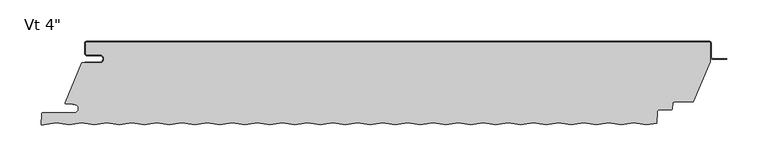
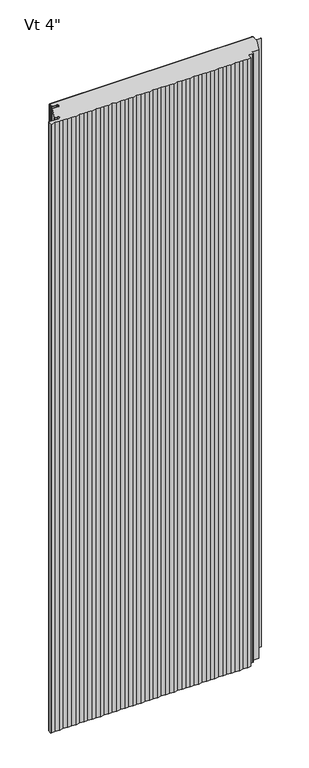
"""IFC4 building model written with IfcOpenShell, lengths in millimetres: plate geometry."""

import ifcopenshell
import ifcopenshell.guid

model = None  # the IFC model being written
_history = None  # IfcOwnerHistory: only IFC2X3 demands one
_inside = {}  # id of a spatial element -> (the spatial element, [elements in it])
_under = {}  # id of a project, library or spatial element -> (it, [spatial elements below it])
_declared = {}  # id of a project -> (the project, [libraries it declares])
_typed = {}  # id of a type object -> (the type object, [elements of that type])
_made_of = {}  # id of a material, layer set ... -> (it, [elements and type objects made of it])


def new_model(schema):
    """Start an empty IFC model of exactly this schema.

    Asked for "IFC4X3", IfcOpenShell would pick the latest addendum, in which some entities
    have other attributes; the version numbers below select the first issue.
    IFC2X3 requires an IfcOwnerHistory on every rooted entity: one is made here for all.
    """
    global model, _history
    if schema == "IFC4X3":
        model = ifcopenshell.file(schema_version=(4, 3, 0, 0))
    else:
        model = ifcopenshell.file(schema=schema)
    _inside.clear()
    _under.clear()
    _declared.clear()
    _typed.clear()
    _made_of.clear()
    _history = None
    if model.schema == "IFC2X3":
        org = make("IfcOrganization", Name="unknown")
        user = make(
            "IfcPersonAndOrganization",
            ThePerson=make("IfcPerson", FamilyName="unknown"),
            TheOrganization=org,
        )
        app = make(
            "IfcApplication",
            ApplicationDeveloper=org,
            Version="unknown",
            ApplicationFullName="unknown",
            ApplicationIdentifier="unknown",
        )
        _history = make(
            "IfcOwnerHistory",
            OwningUser=user,
            OwningApplication=app,
            ChangeAction="ADDED",
            CreationDate=0,
        )
    return model


def make(cls, **values):
    """One entity of the class cls with the attributes given. An attribute that is None is left unset."""
    return model.create_entity(
        cls, **{name: value for name, value in values.items() if value is not None}
    )


def rooted(cls, **values):
    """An entity with a GlobalId (a new one), such as an element, a storey or a relation."""
    return make(cls, GlobalId=ifcopenshell.guid.new(), OwnerHistory=_history, **values)


def si_unit(unit_type, name, prefix=None):
    """IfcSIUnit, for example si_unit("LENGTHUNIT", "METRE", prefix="MILLI")."""
    return make("IfcSIUnit", UnitType=unit_type, Prefix=prefix, Name=name)


def assignment(units):
    """IfcUnitAssignment: the units of a project."""
    return None if units is None else make("IfcUnitAssignment", Units=units)


def point(xyz):
    """IfcCartesianPoint."""
    return None if xyz is None else make("IfcCartesianPoint", Coordinates=xyz)


def direction(xyz):
    """IfcDirection."""
    return None if xyz is None else make("IfcDirection", DirectionRatios=xyz)


def frame(location, z_axis=None, x_axis=None):
    """IfcAxis2Placement3D, a coordinate frame: its origin and axes. An axis left out is left unset."""
    return make(
        "IfcAxis2Placement3D",
        Location=point(location),
        Axis=direction(z_axis),
        RefDirection=direction(x_axis),
    )


def frame_2d(location, x_axis=None):
    """IfcAxis2Placement2D, a coordinate frame in the plane: its origin and x axis."""
    return make(
        "IfcAxis2Placement2D", Location=point(location), RefDirection=direction(x_axis)
    )


def origin():
    """The frame at (0, 0, 0) with its axes left unset."""
    return frame((0.0, 0.0, 0.0))


def origin_with_axes():
    """The frame at (0, 0, 0) with the z axis (0, 0, 1) and the x axis (1, 0, 0) written out."""
    return frame((0.0, 0.0, 0.0), z_axis=(0.0, 0.0, 1.0), x_axis=(1.0, 0.0, 0.0))


def place(relative_to, where):
    """IfcLocalPlacement: puts the frame where relative to a parent placement (None: the world)."""
    return make(
        "IfcLocalPlacement", PlacementRelTo=relative_to, RelativePlacement=where
    )


def context(
    kind, dimensions, precision=None, world=None, true_north=None, identifier=None
):
    """IfcGeometricRepresentationContext, for example the 3D "Model" context."""
    return make(
        "IfcGeometricRepresentationContext",
        ContextIdentifier=identifier,
        ContextType=kind,
        CoordinateSpaceDimension=dimensions,
        Precision=precision,
        WorldCoordinateSystem=world,
        TrueNorth=true_north,
    )


def project(units=None, contexts=None):
    """IfcProject with its units and contexts."""
    return rooted(
        "IfcProject",
        Name="project",
        RepresentationContexts=contexts,
        UnitsInContext=assignment(units),
    )


def spatial(cls, under=None, at=None, **own):
    """A site, building, storey or space (cls), placed at a placement, below another one or the project."""
    s = rooted(cls, ObjectPlacement=at, **own)
    if under is not None:
        _under.setdefault(under.id(), (under, []))[1].append(s)
    return s


def polyline(points):
    """IfcPolyline through the points."""
    return make("IfcPolyline", Points=[point(p) for p in points])


def circle_curve(where, radius):
    """IfcCircle in the frame where."""
    return make("IfcCircle", Position=where, Radius=radius)


def trimmed(basis, trim1, trim2, sense, master):
    """IfcTrimmedCurve: the piece of a basis curve between two trims."""
    return make(
        "IfcTrimmedCurve",
        BasisCurve=basis,
        Trim1=trim1,
        Trim2=trim2,
        SenseAgreement=sense,
        MasterRepresentation=master,
    )


def segment(curve, same_sense, transition):
    """IfcCompositeCurveSegment."""
    return make(
        "IfcCompositeCurveSegment",
        Transition=transition,
        SameSense=same_sense,
        ParentCurve=curve,
    )


def composite_curve(segments, self_intersect=None):
    """IfcCompositeCurve: segments joined end to end."""
    return make("IfcCompositeCurve", Segments=segments, SelfIntersect=self_intersect)


def outline(outer, holes=None, kind="AREA"):
    """IfcArbitraryClosedProfileDef: a profile drawn as a closed curve; with holes, ...WithVoids."""
    if holes is None:
        return make("IfcArbitraryClosedProfileDef", ProfileType=kind, OuterCurve=outer)
    return make(
        "IfcArbitraryProfileDefWithVoids",
        ProfileType=kind,
        OuterCurve=outer,
        InnerCurves=holes,
    )


def extrude(swept, where, along, depth):
    """IfcExtrudedAreaSolid: the profile swept, set in the frame where, extruded along a direction by depth."""
    return make(
        "IfcExtrudedAreaSolid",
        SweptArea=swept,
        Position=where,
        ExtrudedDirection=direction(along),
        Depth=depth,
    )


def shape(context_of_items, identifier, shape_type, items):
    """IfcShapeRepresentation: the items that make up one representation, for example the "Body"."""
    return make(
        "IfcShapeRepresentation",
        ContextOfItems=context_of_items,
        RepresentationIdentifier=identifier,
        RepresentationType=shape_type,
        Items=items,
    )


def source(mapping_origin, context_of_items, identifier, shape_type, items):
    """IfcRepresentationMap: a shape defined once, which mapped items show again and again."""
    return make(
        "IfcRepresentationMap",
        MappingOrigin=mapping_origin,
        MappedRepresentation=shape(context_of_items, identifier, shape_type, items),
    )


def transform(
    local_origin,
    x_axis=None,
    y_axis=None,
    z_axis=None,
    scale=None,
    scale2=None,
    scale3=None,
    uniform=True,
):
    """IfcCartesianTransformationOperator3D, or its non-uniform kind. x_axis, y_axis, z_axis: its Axis1, 2, 3."""
    if uniform:
        return make(
            "IfcCartesianTransformationOperator3D",
            Axis1=direction(x_axis),
            Axis2=direction(y_axis),
            LocalOrigin=point(local_origin),
            Scale=scale,
            Axis3=direction(z_axis),
        )
    return make(
        "IfcCartesianTransformationOperator3DnonUniform",
        Axis1=direction(x_axis),
        Axis2=direction(y_axis),
        LocalOrigin=point(local_origin),
        Scale=scale,
        Axis3=direction(z_axis),
        Scale2=scale2,
        Scale3=scale3,
    )


def mapped(mapping_source, mapping_target):
    """IfcMappedItem: shows the shape of a source again, moved by a transform."""
    return make(
        "IfcMappedItem", MappingSource=mapping_source, MappingTarget=mapping_target
    )


def made_of(thing, what):
    """Note that an element or type object is made of a material, layer set ...; save() writes the relation."""
    if what is not None:
        _made_of.setdefault(what.id(), (what, []))[1].append(thing)
    return thing


def element(
    cls,
    number,
    at=None,
    inside=None,
    cuts=None,
    type_object=None,
    material=None,
    context=None,
    identifier="Body",
    shape_type=None,
    held_by="IfcProductDefinitionShape",
    body=None,
    shapes=None,
    **own,
):
    """One element of the class cls, such as IfcWall. Its Tag is "e" and its number.

    at: its placement. inside: the storey or other place that contains it. cuts: it is an
    opening in that element (IfcRelVoidsElement). A single representation is given by context,
    identifier, shape_type and body (its items); several are given by shapes. held_by: the class
    of the entity that holds the representations. save() writes the other relations.
    """
    e = rooted(cls, Tag="e%d" % number, ObjectPlacement=at, **own)
    if body is not None:
        shapes = [shape(context, identifier, shape_type, body)]
    if shapes is not None:
        e.Representation = make(held_by, Representations=shapes)
    if inside is not None:
        _inside.setdefault(inside.id(), (inside, []))[1].append(e)
    if cuts is not None:
        rooted(
            "IfcRelVoidsElement", RelatingBuildingElement=cuts, RelatedOpeningElement=e
        )
    if type_object is not None:
        _typed.setdefault(type_object.id(), (type_object, []))[1].append(e)
    return made_of(e, material)


def aggregate(whole, parts):
    """IfcRelAggregates: a whole, such as a stair, and the parts it consists of."""
    return rooted("IfcRelAggregates", RelatingObject=whole, RelatedObjects=parts)


def save(model, path):
    """Write the relations noted so far, then the file.

    IfcRelAggregates (storeys below a building ...), IfcRelContainedInSpatialStructure (elements
    in a storey), IfcRelDefinesByType, IfcRelAssociatesMaterial and IfcRelDeclares: one each for
    every whole, place, type object, material and project.
    """
    for whole, parts in _under.values():
        aggregate(whole, parts)
    for where, things in _inside.values():
        rooted(
            "IfcRelContainedInSpatialStructure",
            RelatedElements=things,
            RelatingStructure=where,
        )
    for kind, things in _typed.values():
        rooted("IfcRelDefinesByType", RelatedObjects=things, RelatingType=kind)
    for what, things in _made_of.values():
        rooted("IfcRelAssociatesMaterial", RelatedObjects=things, RelatingMaterial=what)
    for by, libraries in _declared.values():
        rooted("IfcRelDeclares", RelatingContext=by, RelatedDefinitions=libraries)
    model.write(path)


def plate_d86a47c3(model_context):
    return source(origin(), model_context, "Body", "SweptSolid", [
        extrude(outline(composite_curve([segment(polyline([(-361.94375, -16.4625), (-377.81875, -16.4625)]), True, "CONTINUOUS"), segment(trimmed(circle_curve(frame_2d((-377.81875, -15.08125)), 1.38125), [point((-377.81875, -16.4625))], [point((-379.2, -15.08125))], False, "CARTESIAN"), True, "CONTINUOUS"), segment(polyline([(-379.2, -15.08125), (-379.2, -2.38125)]), True, "CONTINUOUS"), segment(trimmed(circle_curve(frame_2d((-377.81875, -2.38125)), 1.38125), [point((-379.2, -2.38125))], [point((-377.81875, -1.0))], False, "CARTESIAN"), True, "CONTINUOUS"), segment(polyline([(-377.81875, -1.0), (377.83125, -1.0)]), True, "CONTINUOUS"), segment(trimmed(circle_curve(frame_2d((377.83125, -2.38125)), 1.38125), [point((377.83125, -1.0))], [point((379.2125, -2.38125))], False, "CARTESIAN"), True, "CONTINUOUS"), segment(polyline([(379.2125, -2.38125), (379.2125, -24.9057308), (358.3955434, -73.6125), (335.9540783, -73.6125)]), True, "CONTINUOUS"), segment(trimmed(circle_curve(frame_2d((335.9540783, -76.2)), 2.5875), [point((335.9540783, -73.6125))], [point((333.3701244, -76.0645807))], True, "CARTESIAN"), True, "CONTINUOUS"), segment(polyline([(333.3701244, -76.0645807), (333.0680481, -81.828539)]), True, "CONTINUOUS"), segment(trimmed(circle_curve(frame_2d((331.6886911, -81.75625)), 1.38125), [point((333.0680481, -81.828539))], [point((331.6886911, -83.1375))], False, "CARTESIAN"), True, "CONTINUOUS"), segment(polyline([(331.6886911, -83.1375), (317.5323847, -83.1375)]), True, "CONTINUOUS"), segment(trimmed(circle_curve(frame_2d((317.5323847, -85.725)), 2.5875), [point((317.5323847, -83.1375))], [point((314.9484307, -85.5895807))], True, "CARTESIAN"), True, "CONTINUOUS"), segment(polyline([(314.9484307, -85.5895807), (314.2106485, -99.6673048), (301.4725, -101.7054086), (286.4350675, -99.2994194), (271.1950675, -101.7378194), (255.9550675, -99.2994194), (240.7150675, -101.7378194), (225.4750675, -99.2994194), (210.2350675, -101.7378194), (194.9950675, -99.2994194), (179.7550675, -101.7378194), (164.5150675, -99.2994194), (149.2750675, -101.7378194), (134.0350675, -99.2994194), (118.7950675, -101.7378194), (103.5550675, -99.2994194), (88.3150675, -101.7378194), (73.0750675, -99.2994194), (57.8350675, -101.7378194), (42.5950675, -99.2994194), (27.3550675, -101.7378194), (12.1150675, -99.2994194), (-3.1249325, -101.7378194), (-18.3649325, -99.2994194), (-33.6049325, -101.7378194), (-48.8449325, -99.2994194), (-64.0849325, -101.7378194), (-79.3249325, -99.2994194), (-94.5649325, -101.7378194), (-109.8049325, -99.2994194), (-125.0449325, -101.7378194), (-140.2849325, -99.2994194), (-155.5249325, -101.7378194), (-170.7649325, -99.2994194), (-186.0049325, -101.7378194), (-201.2449325, -99.2994194), (-216.4849325, -101.7378194), (-231.7249325, -99.2994194), (-246.9649325, -101.7378194), (-262.2049325, -99.2994194), (-277.4449325, -101.7378194), (-292.6849325, -99.2994194), (-307.9249325, -101.7378194), (-323.1649325, -99.2994194), (-338.4049325, -101.7378194), (-353.6449325, -99.2994194), (-368.8849325, -101.7378194), (-384.1249325, -99.2994194), (-399.3649325, -101.7378194), (-414.6049325, -99.2994194), (-429.8449325, -101.7378194), (-433.1672594, -101.2062471), (-432.4769291, -88.033961)]), True, "CONTINUOUS"), segment(trimmed(circle_curve(frame_2d((-431.0975721, -88.10625)), 1.38125), [point((-432.4769291, -88.033961))], [point((-431.0975721, -86.725))], False, "CARTESIAN"), True, "CONTINUOUS"), segment(polyline([(-431.0975721, -86.725), (-392.9142674, -86.725)]), True, "CONTINUOUS"), segment(trimmed(circle_curve(frame_2d((-392.9142674, -81.75625)), 4.96875), [point((-392.9142674, -86.725))], [point((-392.9142674, -76.7875))], True, "CARTESIAN"), True, "CONTINUOUS"), segment(polyline([(-392.9142674, -76.7875), (-394.5017674, -76.99375), (-394.5017674, -76.2), (-404.0125, -76.2), (-404.0125, -74.6157227), (-384.1260922, -26.4), (-361.94375, -26.4)]), True, "CONTINUOUS"), segment(trimmed(circle_curve(frame_2d((-361.94375, -21.43125)), 4.96875), [point((-361.94375, -26.4))], [point((-361.94375, -16.4625))], True, "CARTESIAN"), True, "CONTINUOUS")], self_intersect=False)), origin_with_axes(), (0.0, 0.0, 1.0), 2400.0),
        extrude(outline(composite_curve([segment(polyline([(-380.2, -25.4), (-361.94375, -25.4)]), True, "CONTINUOUS"), segment(trimmed(circle_curve(frame_2d((-361.94375, -21.43125)), 3.96875), [point((-361.94375, -25.4))], [point((-361.94375, -17.4625))], True, "CARTESIAN"), True, "CONTINUOUS"), segment(polyline([(-361.94375, -17.4625), (-377.81875, -17.4625)]), True, "CONTINUOUS"), segment(trimmed(circle_curve(frame_2d((-377.81875, -15.08125)), 2.38125), [point((-377.81875, -17.4625))], [point((-380.2, -15.08125))], False, "CARTESIAN"), True, "CONTINUOUS"), segment(polyline([(-380.2, -15.08125), (-380.2, -2.38125)]), True, "CONTINUOUS"), segment(trimmed(circle_curve(frame_2d((-377.81875, -2.38125)), 2.38125), [point((-380.2, -2.38125))], [point((-377.81875, 0.0))], False, "CARTESIAN"), True, "CONTINUOUS"), segment(polyline([(-377.81875, 0.0), (377.83125, 0.0)]), True, "CONTINUOUS"), segment(trimmed(circle_curve(frame_2d((377.83125, -2.38125)), 2.38125), [point((377.83125, 0.0))], [point((380.2125, -2.38125))], False, "CARTESIAN"), True, "CONTINUOUS"), segment(polyline([(380.2125, -2.38125), (380.2125, -19.446875)]), True, "CONTINUOUS"), segment(trimmed(circle_curve(frame_2d((381.8, -19.446875)), 1.5875), [point((380.2125, -19.446875))], [point((381.8, -21.034375))], True, "CARTESIAN"), True, "CONTINUOUS"), segment(polyline([(381.8, -21.034375), (399.2625, -21.034375), (399.2625, -22.034375), (381.8, -22.034375)]), True, "CONTINUOUS"), segment(trimmed(circle_curve(frame_2d((381.8, -19.446875)), 2.5875), [point((381.8, -22.034375))], [point((379.2125, -19.446875))], False, "CARTESIAN"), True, "CONTINUOUS"), segment(polyline([(379.2125, -19.446875), (379.2125, -2.38125)]), True, "CONTINUOUS"), segment(trimmed(circle_curve(frame_2d((377.83125, -2.38125)), 1.38125), [point((379.2125, -2.38125))], [point((377.83125, -1.0))], True, "CARTESIAN"), True, "CONTINUOUS"), segment(polyline([(377.83125, -1.0), (-377.81875, -1.0)]), True, "CONTINUOUS"), segment(trimmed(circle_curve(frame_2d((-377.81875, -2.38125)), 1.38125), [point((-377.81875, -1.0))], [point((-379.2, -2.38125))], True, "CARTESIAN"), True, "CONTINUOUS"), segment(polyline([(-379.2, -2.38125), (-379.2, -15.08125)]), True, "CONTINUOUS"), segment(trimmed(circle_curve(frame_2d((-377.81875, -15.08125)), 1.38125), [point((-379.2, -15.08125))], [point((-377.81875, -16.4625))], True, "CARTESIAN"), True, "CONTINUOUS"), segment(polyline([(-377.81875, -16.4625), (-361.94375, -16.4625)]), True, "CONTINUOUS"), segment(trimmed(circle_curve(frame_2d((-361.94375, -21.43125)), 4.96875), [point((-361.94375, -16.4625))], [point((-361.94375, -26.4))], False, "CARTESIAN"), True, "CONTINUOUS"), segment(polyline([(-361.94375, -26.4), (-380.2, -26.4), (-380.2, -25.4)]), True, "CONTINUOUS")], self_intersect=False)), origin_with_axes(), (0.0, 0.0, 1.0), 2400.0),
    ])


if __name__ == "__main__":
    model = new_model("IFC4")
    model_context = context("Model", 3, world=origin())
    ifc_project = project(units=[si_unit("LENGTHUNIT", "METRE", prefix="MILLI")], contexts=[model_context])
    site = spatial("IfcSite", under=ifc_project)
    building = spatial("IfcBuilding", under=site)
    placement = place(None, origin())
    plate_shape = plate_d86a47c3(model_context)
    element("IfcPlate", 1, ObjectType="KIP-30-DWHR-R19-CP-Vt-S : Vt 4\"", at=placement, inside=building, context=model_context, shape_type="MappedRepresentation", body=[
        mapped(plate_shape, transform((0.0, 0.0, 0.0), x_axis=(1.0, 0.0, 0.0), y_axis=(0.0, 1.0, 0.0), z_axis=(0.0, 0.0, 1.0))),
    ])
    save(model, "model.ifc")
